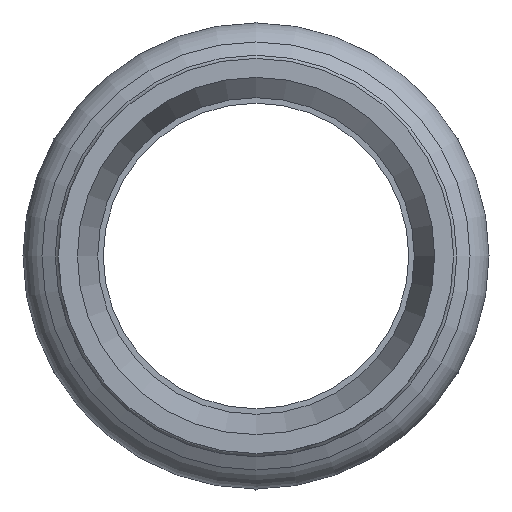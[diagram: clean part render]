
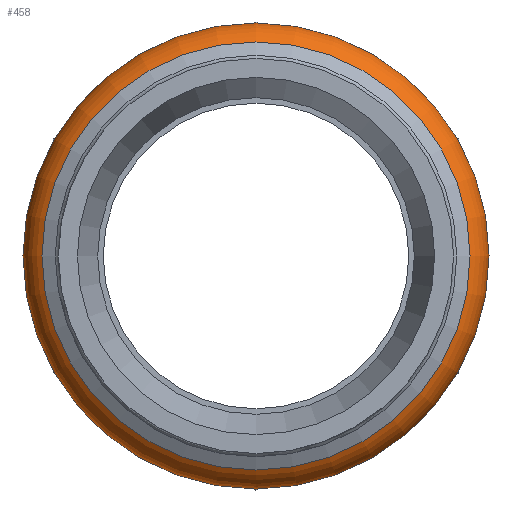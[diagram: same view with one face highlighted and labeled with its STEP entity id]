
A CAD part, left-side view. The second image highlights one B-rep face of the part: STEP entity #458.
In plain terms, the highlighted toroidal (fillet/blend) face has major radius 15.4 mm and minor radius 3 mm.
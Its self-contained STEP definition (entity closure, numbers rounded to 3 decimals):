
#160=CARTESIAN_POINT('',(-20.061,16.0,0.));
#161=VERTEX_POINT('',#160);
#162=CARTESIAN_POINT('',(-20.061,0.,0.0));
#163=DIRECTION('',(1.0,0.0,0.0));
#164=DIRECTION('',(0.0,-1.0,0.0));
#165=AXIS2_PLACEMENT_3D('',#162,#163,#164);
#166=CIRCLE('',#165,16.);
#167=EDGE_CURVE('',#161,#161,#166,.T.);
#304=CARTESIAN_POINT('',(-25.598,16.9,0.0));
#305=VERTEX_POINT('',#304);
#306=CARTESIAN_POINT('',(-25.598,0.,0.0));
#307=DIRECTION('',(1.0,0.0,0.0));
#308=DIRECTION('',(0.0,1.0,0.0));
#309=AXIS2_PLACEMENT_3D('',#306,#307,#308);
#310=CIRCLE('',#309,16.9);
#311=EDGE_CURVE('',#305,#305,#310,.T.);
#447=CARTESIAN_POINT('',(-23.,0.,0.0));
#448=DIRECTION('',(1.0,0.,0.0));
#449=DIRECTION('',(0.0,0.0,-1.0));
#450=AXIS2_PLACEMENT_3D('',#447,#448,#449);
#451=TOROIDAL_SURFACE('',#450,15.4,3.);
#452=ORIENTED_EDGE('',*,*,#311,.T.);
#453=EDGE_LOOP('',(#452));
#454=FACE_OUTER_BOUND('',#453,.T.);
#455=ORIENTED_EDGE('',*,*,#167,.F.);
#456=EDGE_LOOP('',(#455));
#457=FACE_BOUND('',#456,.T.);
#458=ADVANCED_FACE('',(#454,#457),#451,.T.);
